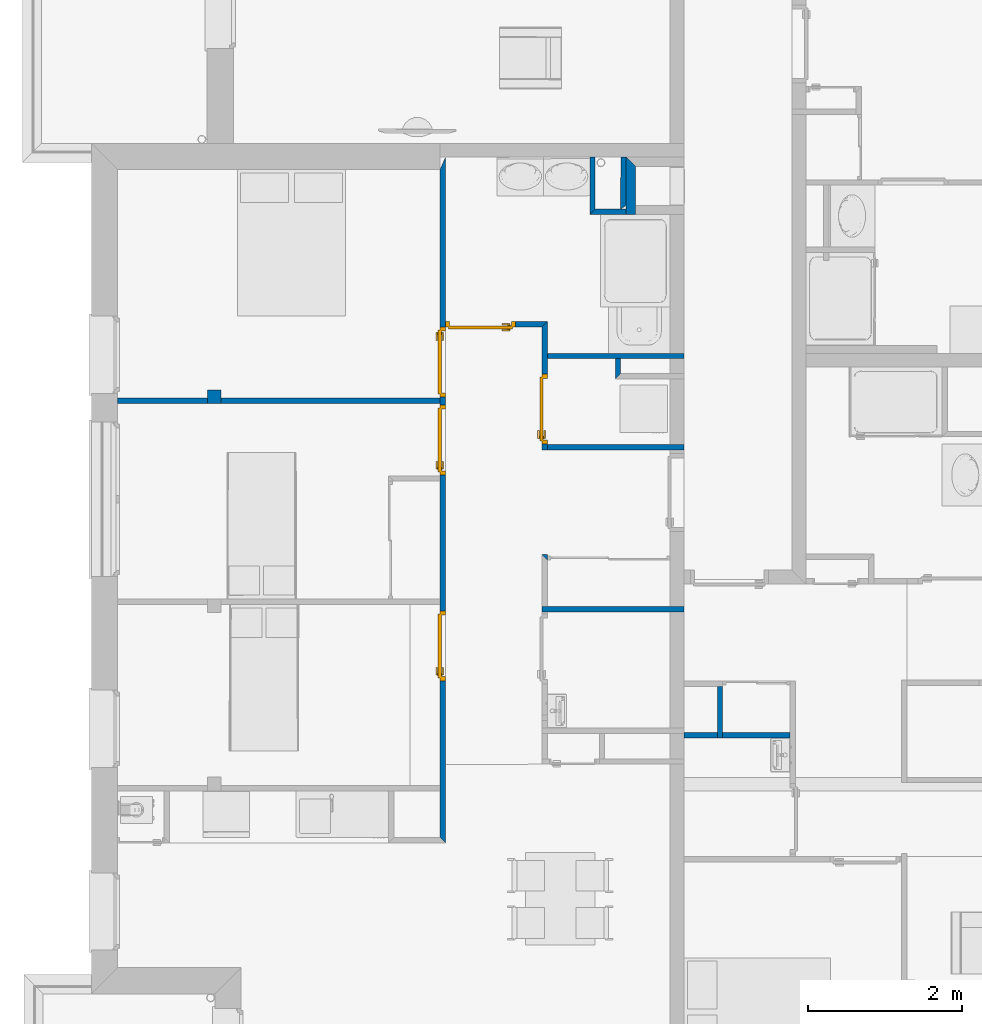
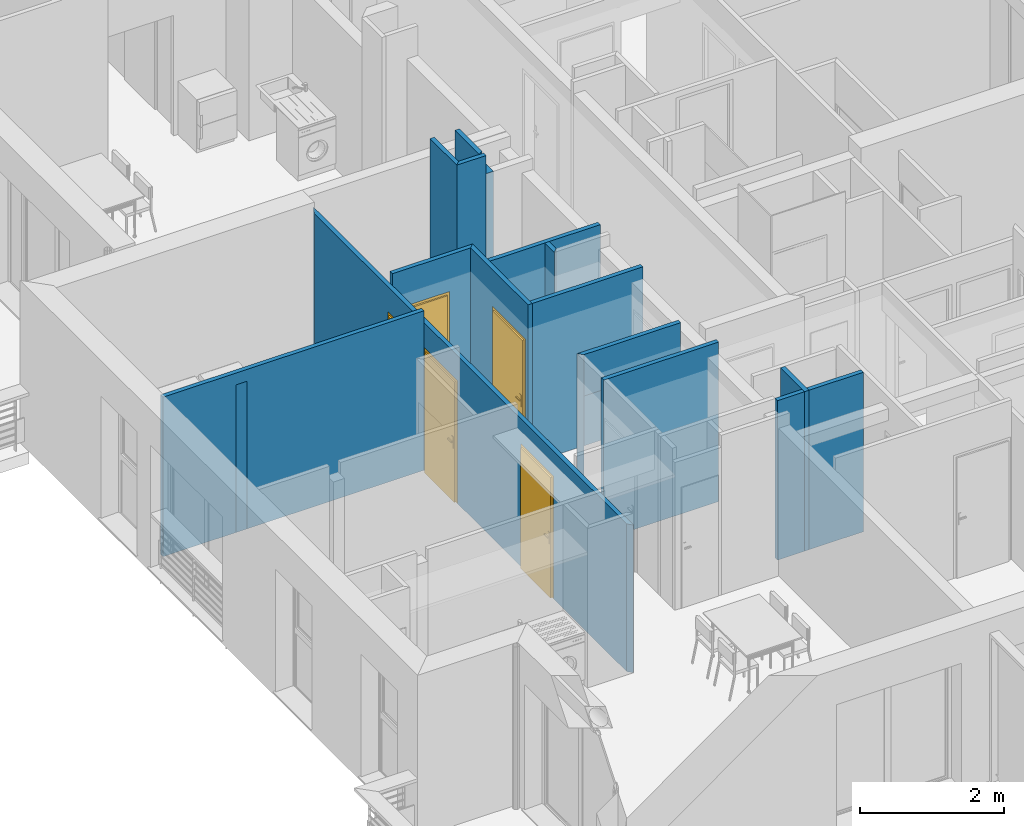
# One storey, part 10 of 164: 16 walls, 5 doors, 6 openings.
"""IFC2X3 building model written with IfcOpenShell, lengths in millimetres."""

import ifcopenshell
import ifcopenshell.guid

model = None  # the IFC model being written
_history = None  # IfcOwnerHistory: only IFC2X3 demands one
_inside = {}  # id of a spatial element -> (the spatial element, [elements in it])
_under = {}  # id of a project, library or spatial element -> (it, [spatial elements below it])
_declared = {}  # id of a project -> (the project, [libraries it declares])
_typed = {}  # id of a type object -> (the type object, [elements of that type])
_made_of = {}  # id of a material, layer set ... -> (it, [elements and type objects made of it])


def new_model(schema):
    """Start an empty IFC model of exactly this schema.

    Asked for "IFC4X3", IfcOpenShell would pick the latest addendum, in which some entities
    have other attributes; the version numbers below select the first issue.
    IFC2X3 requires an IfcOwnerHistory on every rooted entity: one is made here for all.
    """
    global model, _history
    if schema == "IFC4X3":
        model = ifcopenshell.file(schema_version=(4, 3, 0, 0))
    else:
        model = ifcopenshell.file(schema=schema)
    _inside.clear()
    _under.clear()
    _declared.clear()
    _typed.clear()
    _made_of.clear()
    _history = None
    if model.schema == "IFC2X3":
        org = make("IfcOrganization", Name="unknown")
        user = make(
            "IfcPersonAndOrganization",
            ThePerson=make("IfcPerson", FamilyName="unknown"),
            TheOrganization=org,
        )
        app = make(
            "IfcApplication",
            ApplicationDeveloper=org,
            Version="unknown",
            ApplicationFullName="unknown",
            ApplicationIdentifier="unknown",
        )
        _history = make(
            "IfcOwnerHistory",
            OwningUser=user,
            OwningApplication=app,
            ChangeAction="ADDED",
            CreationDate=0,
        )
    return model


def make(cls, **values):
    """One entity of the class cls with the attributes given. An attribute that is None is left unset."""
    return model.create_entity(
        cls, **{name: value for name, value in values.items() if value is not None}
    )


def entity(cls, *values):
    """Any entity or typed value of the class cls, its attributes in the order of the schema. None: left unset."""
    e = model.create_entity(cls)
    for i, value in enumerate(values):
        if value is not None:
            e[i] = value
    return e


def rooted(cls, **values):
    """An entity with a GlobalId (a new one), such as an element, a storey or a relation."""
    return make(cls, GlobalId=ifcopenshell.guid.new(), OwnerHistory=_history, **values)


def si_unit(unit_type, name, prefix=None):
    """IfcSIUnit, for example si_unit("LENGTHUNIT", "METRE", prefix="MILLI")."""
    return make("IfcSIUnit", UnitType=unit_type, Prefix=prefix, Name=name)


def converted_unit(unit_type, name, factor, base, dimensions=None, offset=None):
    """IfcConversionBasedUnit, such as the inch: factor (a typed value) times the base unit."""
    return make(
        "IfcConversionBasedUnit"
        if offset is None
        else "IfcConversionBasedUnitWithOffset",
        ConversionOffset=offset,
        Dimensions=None
        if dimensions is None
        else entity("IfcDimensionalExponents", *dimensions),
        UnitType=unit_type,
        Name=name,
        ConversionFactor=make(
            "IfcMeasureWithUnit", ValueComponent=factor, UnitComponent=base
        ),
    )


def derived_unit(unit_type, elements):
    """IfcDerivedUnit: a product of units, each with its exponent."""
    return make(
        "IfcDerivedUnit",
        Elements=[
            make("IfcDerivedUnitElement", Unit=unit, Exponent=power)
            for unit, power in elements
        ],
        UnitType=unit_type,
    )


def money_unit(currency):
    """IfcMonetaryUnit."""
    return make("IfcMonetaryUnit", Currency=currency)


def assignment(units):
    """IfcUnitAssignment: the units of a project."""
    return None if units is None else make("IfcUnitAssignment", Units=units)


def point(xyz):
    """IfcCartesianPoint."""
    return None if xyz is None else make("IfcCartesianPoint", Coordinates=xyz)


def direction(xyz):
    """IfcDirection."""
    return None if xyz is None else make("IfcDirection", DirectionRatios=xyz)


def frame(location, z_axis=None, x_axis=None):
    """IfcAxis2Placement3D, a coordinate frame: its origin and axes. An axis left out is left unset."""
    return make(
        "IfcAxis2Placement3D",
        Location=point(location),
        Axis=direction(z_axis),
        RefDirection=direction(x_axis),
    )


def frame_2d(location, x_axis=None):
    """IfcAxis2Placement2D, a coordinate frame in the plane: its origin and x axis."""
    return make(
        "IfcAxis2Placement2D", Location=point(location), RefDirection=direction(x_axis)
    )


def origin_with_axes():
    """The frame at (0, 0, 0) with the z axis (0, 0, 1) and the x axis (1, 0, 0) written out."""
    return frame((0.0, 0.0, 0.0), z_axis=(0.0, 0.0, 1.0), x_axis=(1.0, 0.0, 0.0))


def origin_2d_with_axis():
    """The frame at (0, 0) in the plane with the x axis (1, 0) written out."""
    return frame_2d((0.0, 0.0), x_axis=(1.0, 0.0))


def place(relative_to, where):
    """IfcLocalPlacement: puts the frame where relative to a parent placement (None: the world)."""
    return make(
        "IfcLocalPlacement", PlacementRelTo=relative_to, RelativePlacement=where
    )


def context(
    kind, dimensions, precision=None, world=None, true_north=None, identifier=None
):
    """IfcGeometricRepresentationContext, for example the 3D "Model" context."""
    return make(
        "IfcGeometricRepresentationContext",
        ContextIdentifier=identifier,
        ContextType=kind,
        CoordinateSpaceDimension=dimensions,
        Precision=precision,
        WorldCoordinateSystem=world,
        TrueNorth=true_north,
    )


def subcontext(parent, identifier, kind, view, scale=None):
    """IfcGeometricRepresentationSubContext, for example "Body" below "Model"."""
    return make(
        "IfcGeometricRepresentationSubContext",
        ContextIdentifier=identifier,
        ContextType=kind,
        ParentContext=parent,
        TargetScale=scale,
        TargetView=view,
    )


def project(units=None, contexts=None):
    """IfcProject with its units and contexts."""
    return rooted(
        "IfcProject",
        Name="project",
        RepresentationContexts=contexts,
        UnitsInContext=assignment(units),
    )


def spatial(cls, under=None, at=None, **own):
    """A site, building, storey or space (cls), placed at a placement, below another one or the project."""
    s = rooted(cls, ObjectPlacement=at, **own)
    if under is not None:
        _under.setdefault(under.id(), (under, []))[1].append(s)
    return s


def polyline(points):
    """IfcPolyline through the points."""
    return make("IfcPolyline", Points=[point(p) for p in points])


def profile(cls, at=None, kind="AREA", **sizes):
    """A parametric profile (cls). Its sizes go by their IFC names, for example OverallWidth=200.0."""
    return make(cls, ProfileType=kind, Position=at, **sizes)


def rectangle(**sizes):
    """IfcRectangleProfileDef."""
    return profile("IfcRectangleProfileDef", **sizes)


def outline(outer, holes=None, kind="AREA"):
    """IfcArbitraryClosedProfileDef: a profile drawn as a closed curve; with holes, ...WithVoids."""
    if holes is None:
        return make("IfcArbitraryClosedProfileDef", ProfileType=kind, OuterCurve=outer)
    return make(
        "IfcArbitraryProfileDefWithVoids",
        ProfileType=kind,
        OuterCurve=outer,
        InnerCurves=holes,
    )


def extrude(swept, where, along, depth):
    """IfcExtrudedAreaSolid: the profile swept, set in the frame where, extruded along a direction by depth."""
    return make(
        "IfcExtrudedAreaSolid",
        SweptArea=swept,
        Position=where,
        ExtrudedDirection=direction(along),
        Depth=depth,
    )


def faces_of(points, faces, orient=None, outer=None):
    """IfcFace entities. A face is a list of loops; a loop is a list of indices into points, from 0.

    orient and outer hold one flag for each loop. By default every Orientation is true, the
    first loop of a face is its IfcFaceOuterBound and the others are IfcFaceBound.
    """
    made = []
    for i, loops in enumerate(faces):
        bounds = []
        for j, loop in enumerate(loops):
            is_outer = j == 0 if outer is None else outer[i][j]
            bounds.append(
                make(
                    "IfcFaceOuterBound" if is_outer else "IfcFaceBound",
                    Bound=make("IfcPolyLoop", Polygon=[points[k] for k in loop]),
                    Orientation=True if orient is None else orient[i][j],
                )
            )
        made.append(make("IfcFace", Bounds=bounds))
    return made


def faceted_brep(points, faces, orient=None, outer=None, voids=None):
    """IfcFacetedBrep: a solid bounded by flat faces; with voids (closed shells), ...WithVoids."""
    shared = [point(p) for p in points]
    hull = make("IfcClosedShell", CfsFaces=faces_of(shared, faces, orient, outer))
    if voids is None:
        return make("IfcFacetedBrep", Outer=hull)
    return make(
        "IfcFacetedBrepWithVoids",
        Outer=hull,
        Voids=[
            make(cls, CfsFaces=faces_of(shared, fs, o, b)) for cls, fs, o, b in voids
        ],
    )


def shape(context_of_items, identifier, shape_type, items):
    """IfcShapeRepresentation: the items that make up one representation, for example the "Body"."""
    return make(
        "IfcShapeRepresentation",
        ContextOfItems=context_of_items,
        RepresentationIdentifier=identifier,
        RepresentationType=shape_type,
        Items=items,
    )


def source(mapping_origin, context_of_items, identifier, shape_type, items):
    """IfcRepresentationMap: a shape defined once, which mapped items show again and again."""
    return make(
        "IfcRepresentationMap",
        MappingOrigin=mapping_origin,
        MappedRepresentation=shape(context_of_items, identifier, shape_type, items),
    )


def transform(
    local_origin,
    x_axis=None,
    y_axis=None,
    z_axis=None,
    scale=None,
    scale2=None,
    scale3=None,
    uniform=True,
):
    """IfcCartesianTransformationOperator3D, or its non-uniform kind. x_axis, y_axis, z_axis: its Axis1, 2, 3."""
    if uniform:
        return make(
            "IfcCartesianTransformationOperator3D",
            Axis1=direction(x_axis),
            Axis2=direction(y_axis),
            LocalOrigin=point(local_origin),
            Scale=scale,
            Axis3=direction(z_axis),
        )
    return make(
        "IfcCartesianTransformationOperator3DnonUniform",
        Axis1=direction(x_axis),
        Axis2=direction(y_axis),
        LocalOrigin=point(local_origin),
        Scale=scale,
        Axis3=direction(z_axis),
        Scale2=scale2,
        Scale3=scale3,
    )


def mapped(mapping_source, mapping_target):
    """IfcMappedItem: shows the shape of a source again, moved by a transform."""
    return make(
        "IfcMappedItem", MappingSource=mapping_source, MappingTarget=mapping_target
    )


def material(Name=None, Category=None):
    """IfcMaterial."""
    return make("IfcMaterial", Name=Name, Category=Category)


def layer(
    of_material, thickness, ventilated=None, Name=None, Category=None, Priority=None
):
    """IfcMaterialLayer: one layer of a wall or slab, of a material (None: an air gap)."""
    return make(
        "IfcMaterialLayer",
        Material=of_material,
        LayerThickness=thickness,
        IsVentilated=ventilated,
        Name=Name,
        Category=Category,
        Priority=Priority,
    )


def layer_set(layers, Name=None):
    """IfcMaterialLayerSet."""
    return make("IfcMaterialLayerSet", MaterialLayers=layers, LayerSetName=Name)


def layer_usage(for_layer_set, set_direction, sense, offset, extent=None):
    """IfcMaterialLayerSetUsage: how a layer set lies in its element."""
    return make(
        "IfcMaterialLayerSetUsage",
        ForLayerSet=for_layer_set,
        LayerSetDirection=set_direction,
        DirectionSense=sense,
        OffsetFromReferenceLine=offset,
        ReferenceExtent=extent,
    )


def made_of(thing, what):
    """Note that an element or type object is made of a material, layer set ...; save() writes the relation."""
    if what is not None:
        _made_of.setdefault(what.id(), (what, []))[1].append(thing)
    return thing


def type_object(cls, material=None, **own):
    """A type object (cls), such as IfcWallType, which elements share."""
    return made_of(rooted(cls, **own), material)


def element(
    cls,
    number,
    at=None,
    inside=None,
    cuts=None,
    type_object=None,
    material=None,
    context=None,
    identifier="Body",
    shape_type=None,
    held_by="IfcProductDefinitionShape",
    body=None,
    shapes=None,
    **own,
):
    """One element of the class cls, such as IfcWall. Its Tag is "e" and its number.

    at: its placement. inside: the storey or other place that contains it. cuts: it is an
    opening in that element (IfcRelVoidsElement). A single representation is given by context,
    identifier, shape_type and body (its items); several are given by shapes. held_by: the class
    of the entity that holds the representations. save() writes the other relations.
    """
    e = rooted(cls, Tag="e%d" % number, ObjectPlacement=at, **own)
    if body is not None:
        shapes = [shape(context, identifier, shape_type, body)]
    if shapes is not None:
        e.Representation = make(held_by, Representations=shapes)
    if inside is not None:
        _inside.setdefault(inside.id(), (inside, []))[1].append(e)
    if cuts is not None:
        rooted(
            "IfcRelVoidsElement", RelatingBuildingElement=cuts, RelatedOpeningElement=e
        )
    if type_object is not None:
        _typed.setdefault(type_object.id(), (type_object, []))[1].append(e)
    return made_of(e, material)


def fill(opening, filler):
    """IfcRelFillsElement: the door or window that sits in an opening."""
    return rooted(
        "IfcRelFillsElement",
        RelatingOpeningElement=opening,
        RelatedBuildingElement=filler,
    )


def aggregate(whole, parts):
    """IfcRelAggregates: a whole, such as a stair, and the parts it consists of."""
    return rooted("IfcRelAggregates", RelatingObject=whole, RelatedObjects=parts)


def save(model, path):
    """Write the relations noted so far, then the file.

    IfcRelAggregates (storeys below a building ...), IfcRelContainedInSpatialStructure (elements
    in a storey), IfcRelDefinesByType, IfcRelAssociatesMaterial and IfcRelDeclares: one each for
    every whole, place, type object, material and project.
    """
    for whole, parts in _under.values():
        aggregate(whole, parts)
    for where, things in _inside.values():
        rooted(
            "IfcRelContainedInSpatialStructure",
            RelatedElements=things,
            RelatingStructure=where,
        )
    for kind, things in _typed.values():
        rooted("IfcRelDefinesByType", RelatedObjects=things, RelatingType=kind)
    for what, things in _made_of.values():
        rooted("IfcRelAssociatesMaterial", RelatedObjects=things, RelatingMaterial=what)
    for by, libraries in _declared.values():
        rooted("IfcRelDeclares", RelatingContext=by, RelatedDefinitions=libraries)
    model.write(path)


model = new_model("IFC2X3")

# Units and contexts
model_context = context("Model", 3, precision=0.01, world=origin_with_axes(), true_north=direction((0.0, 1.0)))
body_context = subcontext(model_context, "Body", "Model", "MODEL_VIEW")
ifc_project = project(units=[si_unit("LENGTHUNIT", "METRE", prefix="MILLI"), si_unit("AREAUNIT", "SQUARE_METRE"), si_unit("VOLUMEUNIT", "CUBIC_METRE"), converted_unit("PLANEANGLEUNIT", "DEGREE", entity("IfcPlaneAngleMeasure", 0.0174532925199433), si_unit("PLANEANGLEUNIT", "RADIAN"), dimensions=[0, 0, 0, 0, 0, 0, 0]), money_unit("USD"), converted_unit("TIMEUNIT", "Year", entity("IfcTimeMeasure", 31557600.0), si_unit("TIMEUNIT", "SECOND"), dimensions=[0, 0, 1, 0, 0, 0, 0]), si_unit("MASSUNIT", "GRAM", prefix="KILO"), si_unit("THERMODYNAMICTEMPERATUREUNIT", "DEGREE_CELSIUS"), si_unit("LUMINOUSINTENSITYUNIT", "LUMEN"), si_unit("ENERGYUNIT", "JOULE", prefix="MEGA"), derived_unit("THERMALCONDUCTANCEUNIT", [(si_unit("POWERUNIT", "WATT"), 1), (si_unit("LENGTHUNIT", "METRE"), -1), (si_unit("THERMODYNAMICTEMPERATUREUNIT", "KELVIN"), -1)]), derived_unit("SPECIFICHEATCAPACITYUNIT", [(si_unit("ENERGYUNIT", "JOULE"), 1), (si_unit("MASSUNIT", "GRAM", prefix="KILO"), -1), (si_unit("THERMODYNAMICTEMPERATUREUNIT", "KELVIN"), -1)]), derived_unit("MASSDENSITYUNIT", [(si_unit("MASSUNIT", "GRAM", prefix="KILO"), 1), (si_unit("VOLUMEUNIT", "CUBIC_METRE"), -1)])], contexts=[model_context])

# Site, building, storey
site_placement = place(None, origin_with_axes())
site = spatial("IfcSite", under=ifc_project, at=site_placement, Name="Site", CompositionType="ELEMENT")
building_placement = place(site_placement, origin_with_axes())
building = spatial("IfcBuilding", under=site, at=building_placement, Name="Bâtiment", CompositionType="ELEMENT")
storey_placement = place(building_placement, frame((0.0, 0.0, 5750.0), z_axis=(0.0, 0.0, 1.0), x_axis=(1.0, 0.0, 0.0)))
storey = spatial("IfcBuildingStorey", under=building, at=storey_placement, Name="Etage1", CompositionType="ELEMENT", Elevation=5750.0)

# Walls
ifc_material_1 = material(Name="Hachure solide 268963992")
ifc_layer_1 = layer(ifc_material_1, 70.0, ventilated="UNKNOWN")
ifc_layer_set_1 = layer_set([ifc_layer_1], Name="Cloison 70 0826278243")
ifc_layer_usage_1 = layer_usage(ifc_layer_set_1, "AXIS2", "NEGATIVE", 70.0)
wall_type_1 = type_object("IfcWallType", Name="Cloison 70 0826278243 70", PredefinedType="NOTDEFINED")
wall_1_placement = place(storey_placement, frame((2224312.379002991, -650018.391743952, 0.0), z_axis=(0.0, 0.0, 1.0), x_axis=(-0.999999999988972, 4.696381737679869e-06, 0.0)))
element("IfcWallStandardCase", 1, at=wall_1_placement, inside=storey, type_object=wall_type_1, material=ifc_layer_usage_1, Name="Mur-149", context=body_context, shape_type="SweptSolid", body=[
    extrude(outline(polyline([(0.0, 0.0), (1840.21103186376, 0.0), (1840.21103186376, 69.99999999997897), (0.0, 69.99999999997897), (0.0, 0.0)])), origin_with_axes(), (0.0, 0.0, 1.0), 2700.0),
])
ifc_layer_usage_2 = layer_usage(ifc_layer_set_1, "AXIS2", "NEGATIVE", 70.0)
wall_2_placement = place(storey_placement, frame((2223422.804172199, -646738.8568963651, 0.0), z_axis=(0.0, 0.0, 1.0), x_axis=(-3.46149435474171e-05, -0.9999999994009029, 0.0)))
element("IfcWallStandardCase", 2, at=wall_2_placement, inside=storey, type_object=wall_type_1, material=ifc_layer_usage_2, Name="Mur-149", context=body_context, shape_type="SweptSolid", body=[
    extrude(outline(polyline([(70.00000004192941, 1.13686837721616e-10), (332.9953404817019, 0.0), (262.9947808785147, 70.00000000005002), (69.99757699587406, 70.00000000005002), (70.00000004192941, 1.13686837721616e-10)])), origin_with_axes(), (0.0, 0.0, 1.0), 2700.0),
])

# Wall, opening, door
ifc_layer_usage_3 = layer_usage(ifc_layer_set_1, "AXIS2", "NEGATIVE", 70.0)
wall_3_placement = place(storey_placement, frame((2222472.351167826, -646327.0248240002, 0.0), z_axis=(0.0, 0.0, 1.0), x_axis=(-1.0, 0.0, 0.0)))
wall_3 = element("IfcWallStandardCase", 3, at=wall_3_placement, inside=storey, type_object=wall_type_1, material=ifc_layer_usage_3, Name="Mur-149", context=body_context, shape_type="SweptSolid", body=[
    extrude(outline(polyline([(-70.00000000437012, 0.0), (1250.000006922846, 0.0), (1250.000007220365, 69.99999999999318), (0.0007766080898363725, 69.99999999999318), (-70.00000000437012, 0.0)])), origin_with_axes(), (0.0, 0.0, 1.0), 2700.0),
])
opening_1_placement = place(wall_3_placement, frame((796.1304639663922, 0.0, 0.0), z_axis=(0.0, 0.0, 1.0), x_axis=(1.0, 0.0, 0.0)))
opening_1 = element("IfcOpeningElement", 4, at=opening_1_placement, cuts=wall_3, Name="Por-280", context=body_context, shape_type="SweptSolid", body=[
    extrude(rectangle(XDim=910.0, YDim=2080.0, at=origin_2d_with_axis()), frame((0.0, -69.99999999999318, 1040.0), z_axis=(0.0, 1.0, 0.0), x_axis=(1.0, 0.0, 0.0)), (0.0, 0.0, 1.0), 140.0),
])
door_style = type_object("IfcDoorStyle", Name="Porte_1v", ConstructionType="NOTDEFINED", OperationType="NOTDEFINED", ParameterTakesPrecedence=False, Sizeable=False)
shared_shape_1 = source(origin_with_axes(), body_context, "Body", "Brep", [
    faceted_brep([(454.9999999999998, 0.0, 0.0), (414.9999999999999, 0.0, 0.0), (414.9999999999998, 0.0, 2040.0), (-414.9999999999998, 0.0, 2040.0), (-414.9999999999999, 0.0, 0.0), (-454.9999999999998, 0.0, 0.0), (-454.9999999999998, 0.0, 2080.0), (454.9999999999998, 0.0, 2080.0), (454.9999999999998, -69.99999999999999, 0.0), (399.9999999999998, -69.99999999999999, 0.0), (399.9999999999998, -15.0, 0.0), (414.9999999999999, -15.0, 0.0), (414.9999999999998, -15.0, 2040.0), (-414.9999999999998, -15.0, 2040.0), (-414.9999999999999, -15.0, 0.0), (-399.9999999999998, -15.0, 0.0), (-399.9999999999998, -69.99999999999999, 0.0), (-454.9999999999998, -69.99999999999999, 0.0), (-454.9999999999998, -69.99999999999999, 2080.0), (454.9999999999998, -69.99999999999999, 2080.0), (-399.9999999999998, -69.99999999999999, 2025.0), (399.9999999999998, -69.99999999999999, 2025.0), (399.9999999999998, -15.0, 2025.0), (-399.9999999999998, -15.0, 2025.0)], [[[0, 1, 2, 3, 4, 5, 6, 7]], [[0, 8, 9, 10, 11, 1]], [[1, 11, 12, 2]], [[2, 12, 13, 3]], [[3, 13, 14, 4]], [[5, 4, 14, 15, 16, 17]], [[18, 6, 5, 17]], [[19, 7, 6, 18]], [[8, 0, 7, 19]], [[9, 8, 19, 18, 17, 16, 20, 21]], [[10, 9, 21, 22]], [[11, 10, 22, 23, 15, 14, 13, 12]], [[23, 20, 16, 15]], [[22, 21, 20, 23]]]),
    faceted_brep([(-349.9999999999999, -15.0, 900.0), (-389.9999999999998, -15.0, 900.0), (-389.9999999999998, -15.0, 1100.0), (-349.9999999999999, -15.0, 1100.0), (-349.9999999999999, -24.99999999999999, 900.0), (-389.9999999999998, -24.99999999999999, 900.0), (-389.9999999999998, -24.99999999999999, 1100.0), (-349.9999999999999, -24.99999999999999, 1100.0)], [[[0, 1, 2, 3]], [[1, 0, 4, 5]], [[2, 1, 5, 6]], [[3, 2, 6, 7]], [[0, 3, 7, 4]], [[5, 4, 7, 6]]]),
    faceted_brep([(-279.9999999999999, -24.99999999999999, 1000.0), (-379.9999999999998, -24.99999999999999, 1000.0), (-379.9999999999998, -24.99999999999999, 1020.0), (-279.9999999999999, -24.99999999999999, 1020.0), (-279.9999999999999, -44.99999999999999, 1000.0), (-379.9999999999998, -44.99999999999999, 1000.0), (-379.9999999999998, -44.99999999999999, 1020.0), (-279.9999999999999, -44.99999999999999, 1020.0)], [[[0, 1, 2, 3]], [[1, 0, 4, 5]], [[2, 1, 5, 6]], [[3, 2, 6, 7]], [[0, 3, 7, 4]], [[5, 4, 7, 6]]]),
    faceted_brep([(-349.9999999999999, 34.99999999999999, 900.0), (-389.9999999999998, 34.99999999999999, 900.0), (-389.9999999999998, 34.99999999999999, 1100.0), (-349.9999999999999, 34.99999999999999, 1100.0), (-349.9999999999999, 24.99999999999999, 900.0), (-389.9999999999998, 24.99999999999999, 900.0), (-389.9999999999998, 24.99999999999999, 1100.0), (-349.9999999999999, 24.99999999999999, 1100.0)], [[[0, 1, 2, 3]], [[1, 0, 4, 5]], [[2, 1, 5, 6]], [[3, 2, 6, 7]], [[0, 3, 7, 4]], [[5, 4, 7, 6]]]),
    faceted_brep([(-279.9999999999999, 54.99999999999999, 1000.0), (-379.9999999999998, 54.99999999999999, 1000.0), (-379.9999999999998, 54.99999999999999, 1020.0), (-279.9999999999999, 54.99999999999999, 1020.0), (-279.9999999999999, 34.99999999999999, 1000.0), (-379.9999999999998, 34.99999999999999, 1000.0), (-379.9999999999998, 34.99999999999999, 1020.0), (-279.9999999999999, 34.99999999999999, 1020.0)], [[[0, 1, 2, 3]], [[1, 0, 4, 5]], [[2, 1, 5, 6]], [[3, 2, 6, 7]], [[0, 3, 7, 4]], [[5, 4, 7, 6]]]),
    faceted_brep([(-414.9999999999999, 24.99999999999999, 0.0), (414.9999999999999, 24.99999999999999, 0.0), (414.9999999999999, -15.0, 0.0), (-414.9999999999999, -15.0, 0.0), (-414.9999999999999, 24.99999999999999, 2040.0), (414.9999999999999, 24.99999999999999, 2040.0), (414.9999999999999, -15.0, 2040.0), (-414.9999999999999, -15.0, 2040.0)], [[[0, 1, 2, 3]], [[0, 4, 5, 1]], [[1, 5, 6, 2]], [[3, 2, 6, 7]], [[4, 0, 3, 7]], [[5, 4, 7, 6]]]),
])
door_1_placement = place(opening_1_placement, frame((-414.9999999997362, 0.0, 0.0), z_axis=(0.0, 0.0, 1.0), x_axis=(1.0, 0.0, 0.0)))
door_1 = element("IfcDoor", 5, at=door_1_placement, inside=storey, type_object=door_style, Name="Por-280", OverallHeight=2040.0, OverallWidth=830.0, context=body_context, shape_type="MappedRepresentation", body=[
    mapped(shared_shape_1, transform((414.9999999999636, 69.99999999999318, 0.0))),
])
fill(opening_1, door_1)

# Walls
ifc_layer_usage_4 = layer_usage(ifc_layer_set_1, "AXIS2", "NEGATIVE", 70.0)
wall_4_placement = place(storey_placement, frame((2224312.371118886, -646738.8568963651, 0.0), z_axis=(0.0, 0.0, 1.0), x_axis=(-1.0, 0.0, 0.0)))
element("IfcWallStandardCase", 6, at=wall_4_placement, inside=storey, type_object=wall_type_1, material=ifc_layer_usage_4, Name="Mur-149", context=body_context, shape_type="SweptSolid", body=[
    extrude(outline(polyline([(0.0, 0.0), (1770.024520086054, 0.0), (1770.02529669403, 69.99999999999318), (0.0, 69.99999999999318), (0.0, 0.0)])), origin_with_axes(), (0.0, 0.0, 1.0), 2700.0),
])
ifc_layer_usage_5 = layer_usage(ifc_layer_set_1, "AXIS2", "POSITIVE", -70.0)
wall_5_placement = place(storey_placement, frame((2223562.190717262, -644940.5007987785, 0.0), z_axis=(0.0, 0.0, 1.0), x_axis=(-1.0, 0.0, 0.0)))
element("IfcWallStandardCase", 7, at=wall_5_placement, inside=storey, type_object=wall_type_1, material=ifc_layer_usage_5, Name="Mur-149", context=body_context, shape_type="SweptSolid", body=[
    extrude(outline(polyline([(0.0, -69.99999999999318), (400.4638415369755, -69.99999999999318), (470.4638415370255, 0.0), (0.0, 0.0), (0.0, -69.99999999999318)])), origin_with_axes(), (0.0, 0.0, 1.0), 3000.0),
])
ifc_layer_usage_6 = layer_usage(ifc_layer_set_1, "AXIS2", "NEGATIVE", 70.0)
wall_6_placement = place(storey_placement, frame((2221152.351167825, -647320.7866252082, 0.0), z_axis=(0.0, 0.0, 1.0), x_axis=(-1.0, 0.0, 0.0)))
element("IfcWallStandardCase", 8, at=wall_6_placement, inside=storey, type_object=wall_type_1, material=ifc_layer_usage_6, Name="Mur-149", context=body_context, shape_type="SweptSolid", body=[
    extrude(outline(polyline([(1.114665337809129e-05, 0.0), (4178.117822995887, 0.0), (4178.117822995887, 69.99999999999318), (1.144417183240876e-05, 69.99999999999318), (1.114665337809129e-05, 0.0)])), origin_with_axes(), (0.0, 0.0, 1.0), 2700.0),
])
ifc_layer_usage_7 = layer_usage(ifc_layer_set_1, "AXIS2", "NEGATIVE", 70.0)
wall_7_placement = place(storey_placement, frame((2224312.344504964, -647918.5288637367, 0.0), z_axis=(0.0, 0.0, 1.0), x_axis=(-1.0, 0.0, 0.0)))
element("IfcWallStandardCase", 9, at=wall_7_placement, inside=storey, type_object=wall_type_1, material=ifc_layer_usage_7, Name="Mur-149", context=body_context, shape_type="SweptSolid", body=[
    extrude(outline(polyline([(0.0, 0.0), (1770.010993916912, 0.0), (1770.011770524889, 69.99999999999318), (0.0, 69.99999999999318), (0.0, 0.0)])), origin_with_axes(), (0.0, 0.0, 1.0), 2700.0),
])

# Wall, opening, door
ifc_layer_usage_8 = layer_usage(ifc_layer_set_1, "AXIS2", "NEGATIVE", 70.0)
wall_8_placement = place(storey_placement, frame((2222472.351167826, -646327.0248240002, 0.0), z_axis=(0.0, 0.0, 1.0), x_axis=(-1.109440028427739e-05, -0.9999999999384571, 0.0)))
wall_8 = element("IfcWallStandardCase", 10, at=wall_8_placement, inside=storey, type_object=wall_type_1, material=ifc_layer_usage_8, Name="Mur-149", context=body_context, shape_type="SweptSolid", body=[
    extrude(outline(polyline([(70.00000000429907, 0.0), (1661.504039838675, 0.0), (1661.504039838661, 69.99999999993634), (-0.0007766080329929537, 70.00000000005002), (70.00000000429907, 0.0)])), origin_with_axes(), (0.0, 0.0, 1.0), 2700.0),
])
opening_2_placement = place(wall_8_placement, frame((1134.999925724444, -1.13686837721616e-10, 0.0), z_axis=(0.0, 0.0, 1.0), x_axis=(1.0, 0.0, 0.0)))
opening_2 = element("IfcOpeningElement", 11, at=opening_2_placement, cuts=wall_8, Name="Por-284", context=body_context, shape_type="SweptSolid", body=[
    extrude(rectangle(XDim=910.0, YDim=2080.0, at=origin_2d_with_axis()), frame((0.0, 70.00000000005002, 1040.0), z_axis=(0.0, -1.0, 0.0), x_axis=(-1.0, 0.0, 0.0)), (0.0, 0.0, 1.0), 140.0),
])
door_2_placement = place(opening_2_placement, frame((415.0000000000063, 3.410605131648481e-10, 0.0), z_axis=(0.0, 0.0, 1.0), x_axis=(-1.0, 0.0, 0.0)))
door_2 = element("IfcDoor", 12, at=door_2_placement, inside=storey, type_object=door_style, Name="Por-284", OverallHeight=2040.0, OverallWidth=830.0, context=body_context, shape_type="MappedRepresentation", body=[
    mapped(shared_shape_1, transform((415.0000000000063, 1.13686837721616e-10, 0.0))),
])
fill(opening_2, door_2)

# Walls
ifc_layer_usage_9 = layer_usage(ifc_layer_set_1, "AXIS2", "NEGATIVE", 70.0)
wall_9_placement = place(storey_placement, frame((2224312.31835671, -651724.3517134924, 0.0), z_axis=(0.0, 0.0, 1.0), x_axis=(1.0, 0.0, 0.0)))
element("IfcWallStandardCase", 13, at=wall_9_placement, inside=storey, type_object=wall_type_1, material=ifc_layer_usage_9, Name="Mur-149", context=body_context, shape_type="SweptSolid", body=[
    extrude(outline(polyline([(0.0, 0.0), (1374.504614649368, 0.0), (1374.504614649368, 69.99999999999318), (0.0, 69.99999999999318), (0.0, 0.0)])), origin_with_axes(), (0.0, 0.0, 1.0), 2700.0),
])
ifc_layer_usage_10 = layer_usage(ifc_layer_set_1, "AXIS2", "NEGATIVE", 70.0)
wall_10_placement = place(storey_placement, frame((2224814.891377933, -651724.6231453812, 0.0), z_axis=(0.0, 0.0, 1.0), x_axis=(0.0, 1.0, 0.0)))
element("IfcWallStandardCase", 14, at=wall_10_placement, inside=storey, type_object=wall_type_1, material=ifc_layer_usage_10, Name="Mur-149", context=body_context, shape_type="SweptSolid", body=[
    extrude(outline(polyline([(0.0, 0.0), (670.2714318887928, 0.0), (670.2714318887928, 70.00000000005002), (0.0, 70.00000000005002), (0.0, 0.0)])), origin_with_axes(), (0.0, 0.0, 1.0), 2700.0),
])
ifc_layer_usage_11 = layer_usage(ifc_layer_set_1, "AXIS2", "POSITIVE", -70.0)
wall_11_placement = place(storey_placement, frame((2223091.726875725, -644940.5007987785, 0.0), z_axis=(0.0, 0.0, 1.0), x_axis=(0.0, 1.0, 0.0)))
element("IfcWallStandardCase", 15, at=wall_11_placement, inside=storey, type_object=wall_type_1, material=ifc_layer_usage_11, Name="Mur-149", context=body_context, shape_type="SweptSolid", body=[
    extrude(outline(polyline([(69.99999999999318, -70.00000000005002), (744.1243706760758, -70.00000000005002), (744.1243693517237, 0.0), (0.0, 0.0), (69.99999999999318, -70.00000000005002)])), origin_with_axes(), (0.0, 0.0, 1.0), 3000.0),
])

# Wall, opening
ifc_layer_usage_12 = layer_usage(ifc_layer_set_1, "AXIS2", "NEGATIVE", 70.0)
wall_12_placement = place(storey_placement, frame((2224092.318310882, -649348.3834312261, 0.0), z_axis=(0.0, 0.0, 1.0), x_axis=(-1.0, 0.0, 0.0)))
wall_12 = element("IfcWallStandardCase", 16, at=wall_12_placement, inside=storey, type_object=wall_type_1, material=ifc_layer_usage_12, Name="Mur-149", context=body_context, shape_type="SweptSolid", body=[
    extrude(outline(polyline([(0.0, 0.0), (1619.967188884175, 0.0), (1549.979179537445, 69.99999999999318), (0.0, 69.99999999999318), (0.0, 0.0)])), origin_with_axes(), (0.0, 0.0, 1.0), 2700.0),
])
opening_3_placement = place(wall_12_placement, frame((754.9929964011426, 0.0, 0.0), z_axis=(0.0, 0.0, 1.0), x_axis=(1.0, 0.0, 0.0)))
element("IfcOpeningElement", 17, at=opening_3_placement, cuts=wall_12, Name="Por-322", context=body_context, shape_type="SweptSolid", body=[
    extrude(rectangle(XDim=1589.985992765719, YDim=2000.0, at=origin_2d_with_axis()), frame((0.0, 69.99999999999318, 1000.0), z_axis=(0.0, -1.0, 0.0), x_axis=(1.0, 0.0, 0.0)), (0.0, 0.0, -1.0), 70.0),
    extrude(rectangle(XDim=1589.985992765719, YDim=2000.0, at=origin_2d_with_axis()), frame((0.0, 69.99999999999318, 1000.0), z_axis=(0.0, 1.0, 0.0), x_axis=(1.0, 0.0, 0.0)), (0.0, 0.0, -1.0), 70.0),
])

# Wall
ifc_layer_usage_13 = layer_usage(ifc_layer_set_1, "AXIS2", "POSITIVE", -70.0)
wall_13_placement = place(storey_placement, frame((2223563.825471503, -644196.3774207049, 0.0), z_axis=(0.0, 0.0, 1.0), x_axis=(-0.002196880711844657, -0.9999975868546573, 0.0)))
element("IfcWallStandardCase", 18, at=wall_13_placement, inside=storey, type_object=wall_type_1, material=ifc_layer_usage_13, Name="Mur-149", context=body_context, shape_type="SweptSolid", body=[
    extrude(outline(polyline([(0.0, -70.00000000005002), (674.2787868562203, -70.00000000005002), (624.1248841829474, 0.0), (0.0, 0.0), (0.0, -70.00000000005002)])), origin_with_axes(), (0.0, 0.0, 1.0), 3000.0),
])

# Wall, openings, doors
ifc_layer_usage_14 = layer_usage(ifc_layer_set_1, "AXIS2", "NEGATIVE", 70.0)
wall_14_placement = place(storey_placement, frame((2221152.351170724, -644016.3764661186, 0.0), z_axis=(0.0, 0.0, 1.0), x_axis=(-4.250342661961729e-09, -1.0, 0.0)))
wall_14 = element("IfcWallStandardCase", 19, at=wall_14_placement, inside=storey, type_object=wall_type_1, material=ifc_layer_usage_14, Name="Mur-149", context=body_context, shape_type="SweptSolid", body=[
    extrude(outline(polyline([(339.999999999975, 1.13686837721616e-10), (8996.583423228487, 0.0), (9066.583422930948, 70.00000000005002), (179.9999983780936, 70.00000000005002), (339.999999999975, 1.13686837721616e-10)])), origin_with_axes(), (0.0, 0.0, 1.0), 2500.0),
])
opening_4_placement = place(wall_14_placement, frame((2835.648357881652, -2.273736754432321e-10, 0.0), z_axis=(0.0, 0.0, 1.0), x_axis=(1.0, 0.0, 0.0)))
opening_4 = element("IfcOpeningElement", 20, at=opening_4_placement, cuts=wall_14, Name="Por-278", context=body_context, shape_type="SweptSolid", body=[
    extrude(rectangle(XDim=910.0, YDim=2080.0, at=origin_2d_with_axis()), frame((-2.975326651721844e-07, 70.00000000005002, 1040.0), z_axis=(-4.250342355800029e-09, 1.0, 0.0), x_axis=(1.0, 4.250342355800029e-09, 0.0)), (0.0, 0.0, -1.0), 140.0),
])
opening_5_placement = place(wall_14_placement, frame((3844.526334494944, -2.273736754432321e-10, 0.0), z_axis=(0.0, 0.0, 1.0), x_axis=(1.0, 0.0, 0.0)))
opening_5 = element("IfcOpeningElement", 21, at=opening_5_placement, cuts=wall_14, Name="Por-279", context=body_context, shape_type="SweptSolid", body=[
    extrude(rectangle(XDim=910.0, YDim=2080.0, at=origin_2d_with_axis()), frame((-2.975326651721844e-07, 70.00000000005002, 1040.0), z_axis=(4.250342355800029e-09, -1.0, 0.0), x_axis=(-1.0, -4.250342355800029e-09, 0.0)), (0.0, 0.0, 1.0), 140.0),
])
opening_6_placement = place(wall_14_placement, frame((6513.65574901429, -1.13686837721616e-10, 0.0), z_axis=(0.0, 0.0, 1.0), x_axis=(1.0, 0.0, 0.0)))
opening_6 = element("IfcOpeningElement", 22, at=opening_6_placement, cuts=wall_14, Name="Por-281", context=body_context, shape_type="SweptSolid", body=[
    extrude(rectangle(XDim=910.0, YDim=2080.0, at=origin_2d_with_axis()), frame((-2.975326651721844e-07, 70.00000000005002, 1040.0), z_axis=(4.250342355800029e-09, -1.0, 0.0), x_axis=(-1.0, -4.250342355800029e-09, 0.0)), (0.0, 0.0, 1.0), 140.0),
])
shared_shape_2 = source(origin_with_axes(), body_context, "Body", "Brep", [
    faceted_brep([(455.0, 0.0, 0.0), (415.0000000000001, 0.0, 0.0), (415.0000000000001, 0.0, 2040.0), (-415.0000000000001, 0.0, 2040.0), (-415.0000000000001, 0.0, 0.0), (-455.0, 0.0, 0.0), (-455.0, 0.0, 2080.0), (455.0, 0.0, 2080.0), (455.0, -70.0, 0.0), (400.0, -70.0, 0.0), (400.0, -15.0, 0.0), (415.0000000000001, -15.0, 0.0), (415.0000000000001, -15.0, 2040.0), (-415.0000000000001, -15.0, 2040.0), (-415.0000000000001, -15.0, 0.0), (-400.0, -15.0, 0.0), (-400.0, -70.0, 0.0), (-455.0, -70.0, 0.0), (-455.0, -70.0, 2080.0), (455.0, -70.0, 2080.0), (-400.0, -70.0, 2025.0), (400.0, -70.0, 2025.0), (400.0, -15.0, 2025.0), (-400.0, -15.0, 2025.0)], [[[0, 1, 2, 3, 4, 5, 6, 7]], [[0, 8, 9, 10, 11, 1]], [[1, 11, 12, 2]], [[2, 12, 13, 3]], [[3, 13, 14, 4]], [[5, 4, 14, 15, 16, 17]], [[18, 6, 5, 17]], [[19, 7, 6, 18]], [[8, 0, 7, 19]], [[9, 8, 19, 18, 17, 16, 20, 21]], [[10, 9, 21, 22]], [[11, 10, 22, 23, 15, 14, 13, 12]], [[23, 20, 16, 15]], [[22, 21, 20, 23]]]),
    faceted_brep([(-350.0000000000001, -15.0, 900.0), (-390.0, -15.0, 900.0), (-390.0, -15.0, 1100.0), (-350.0000000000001, -15.0, 1100.0), (-350.0000000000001, -25.0, 900.0), (-390.0, -25.0, 900.0), (-390.0, -25.0, 1100.0), (-350.0000000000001, -25.0, 1100.0)], [[[0, 1, 2, 3]], [[1, 0, 4, 5]], [[2, 1, 5, 6]], [[3, 2, 6, 7]], [[0, 3, 7, 4]], [[5, 4, 7, 6]]]),
    faceted_brep([(-280.0, -25.0, 1000.0), (-380.0, -25.0, 1000.0), (-380.0, -25.0, 1020.0), (-280.0, -25.0, 1020.0), (-280.0, -45.0, 1000.0), (-380.0, -45.0, 1000.0), (-380.0, -45.0, 1020.0), (-280.0, -45.0, 1020.0)], [[[0, 1, 2, 3]], [[1, 0, 4, 5]], [[2, 1, 5, 6]], [[3, 2, 6, 7]], [[0, 3, 7, 4]], [[5, 4, 7, 6]]]),
    faceted_brep([(-350.0000000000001, 35.0, 900.0), (-390.0, 35.0, 900.0), (-390.0, 35.0, 1100.0), (-350.0000000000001, 35.0, 1100.0), (-350.0000000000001, 25.0, 900.0), (-390.0, 25.0, 900.0), (-390.0, 25.0, 1100.0), (-350.0000000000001, 25.0, 1100.0)], [[[0, 1, 2, 3]], [[1, 0, 4, 5]], [[2, 1, 5, 6]], [[3, 2, 6, 7]], [[0, 3, 7, 4]], [[5, 4, 7, 6]]]),
    faceted_brep([(-280.0, 55.00000000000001, 1000.0), (-380.0, 55.00000000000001, 1000.0), (-380.0, 55.00000000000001, 1020.0), (-280.0, 55.00000000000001, 1020.0), (-280.0, 35.0, 1000.0), (-380.0, 35.0, 1000.0), (-380.0, 35.0, 1020.0), (-280.0, 35.0, 1020.0)], [[[0, 1, 2, 3]], [[1, 0, 4, 5]], [[2, 1, 5, 6]], [[3, 2, 6, 7]], [[0, 3, 7, 4]], [[5, 4, 7, 6]]]),
    faceted_brep([(-415.0000000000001, 25.0, 0.0), (415.0000000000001, 25.0, 0.0), (415.0000000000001, -15.0, 0.0), (-415.0000000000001, -15.0, 0.0), (-415.0000000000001, 25.0, 2040.0), (415.0000000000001, 25.0, 2040.0), (415.0000000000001, -15.0, 2040.0), (-415.0000000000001, -15.0, 2040.0)], [[[0, 1, 2, 3]], [[0, 4, 5, 1]], [[1, 5, 6, 2]], [[3, 2, 6, 7]], [[4, 0, 3, 7]], [[5, 4, 7, 6]]]),
])
door_3_placement = place(opening_5_placement, frame((414.999999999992, 2.273736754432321e-10, 0.0), z_axis=(0.0, 0.0, 1.0), x_axis=(-1.0, 0.0, 0.0)))
door_3 = element("IfcDoor", 23, at=door_3_placement, inside=storey, type_object=door_style, Name="Por-279", OverallHeight=2040.0, OverallWidth=830.0, context=body_context, shape_type="MappedRepresentation", body=[
    mapped(shared_shape_2, transform((415.0000000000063, -1.634043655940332e-05, 0.0))),
])
fill(opening_5, door_3)
door_4_placement = place(opening_6_placement, frame((414.9999999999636, 0.0, 0.0), z_axis=(0.0, 0.0, 1.0), x_axis=(-1.0, 0.0, 0.0)))
door_4 = element("IfcDoor", 24, at=door_4_placement, inside=storey, type_object=door_style, Name="Por-281", OverallHeight=2040.0, OverallWidth=830.0, context=body_context, shape_type="MappedRepresentation", body=[
    mapped(shared_shape_2, transform((415.0000000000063, -2.768524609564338e-05, 0.0))),
])
fill(opening_6, door_4)
shared_shape_3 = source(origin_with_axes(), body_context, "Body", "Brep", [
    faceted_brep([(-454.9999999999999, 0.0, 0.0), (-454.9999999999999, 0.0, 2080.0), (454.9999999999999, 0.0, 2080.0), (454.9999999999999, 0.0, 0.0), (414.9999999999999, 0.0, 0.0), (414.9999999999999, 0.0, 2040.0), (-414.9999999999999, 0.0, 2040.0), (-414.9999999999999, 0.0, 0.0), (-454.9999999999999, -69.99999999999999, 0.0), (-454.9999999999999, -69.99999999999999, 2080.0), (454.9999999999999, -69.99999999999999, 2080.0), (454.9999999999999, -69.99999999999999, 0.0), (399.9999999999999, -69.99999999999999, 0.0), (399.9999999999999, -15.0, 0.0), (414.9999999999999, -15.0, 0.0), (414.9999999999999, -15.0, 2040.0), (-414.9999999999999, -14.99999999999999, 2040.0), (-414.9999999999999, -14.99999999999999, 0.0), (-399.9999999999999, -14.99999999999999, 0.0), (-399.9999999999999, -69.99999999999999, 0.0), (-399.9999999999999, -69.99999999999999, 2025.0), (399.9999999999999, -69.99999999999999, 2025.0), (399.9999999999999, -15.0, 2025.0), (-399.9999999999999, -14.99999999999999, 2025.0)], [[[0, 1, 2, 3, 4, 5, 6, 7]], [[8, 9, 1, 0]], [[9, 10, 2, 1]], [[10, 11, 3, 2]], [[3, 11, 12, 13, 14, 4]], [[5, 4, 14, 15]], [[6, 5, 15, 16]], [[7, 6, 16, 17]], [[0, 7, 17, 18, 19, 8]], [[19, 20, 21, 12, 11, 10, 9, 8]], [[22, 13, 12, 21]], [[17, 16, 15, 14, 13, 22, 23, 18]], [[18, 23, 20, 19]], [[23, 22, 21, 20]]]),
    faceted_brep([(350.0, -15.0, 900.0), (350.0, -15.0, 1100.0), (389.9999999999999, -15.0, 1100.0), (389.9999999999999, -15.0, 900.0), (350.0, -25.0, 900.0), (350.0, -25.0, 1100.0), (389.9999999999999, -25.0, 1100.0), (389.9999999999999, -25.0, 900.0)], [[[0, 1, 2, 3]], [[0, 4, 5, 1]], [[1, 5, 6, 2]], [[2, 6, 7, 3]], [[3, 7, 4, 0]], [[7, 6, 5, 4]]]),
    faceted_brep([(279.9999999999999, -25.0, 1000.0), (279.9999999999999, -25.0, 1020.0), (379.9999999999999, -25.0, 1020.0), (379.9999999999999, -25.0, 1000.0), (279.9999999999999, -45.0, 1000.0), (279.9999999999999, -45.0, 1020.0), (379.9999999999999, -45.0, 1020.0), (379.9999999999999, -45.0, 1000.0)], [[[0, 1, 2, 3]], [[0, 4, 5, 1]], [[1, 5, 6, 2]], [[2, 6, 7, 3]], [[3, 7, 4, 0]], [[7, 6, 5, 4]]]),
    faceted_brep([(350.0, 34.99999999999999, 900.0), (350.0, 34.99999999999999, 1100.0), (389.9999999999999, 34.99999999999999, 1100.0), (389.9999999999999, 34.99999999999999, 900.0), (350.0, 24.99999999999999, 900.0), (350.0, 24.99999999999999, 1100.0), (389.9999999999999, 24.99999999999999, 1100.0), (389.9999999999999, 24.99999999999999, 900.0)], [[[0, 1, 2, 3]], [[0, 4, 5, 1]], [[1, 5, 6, 2]], [[2, 6, 7, 3]], [[3, 7, 4, 0]], [[7, 6, 5, 4]]]),
    faceted_brep([(279.9999999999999, 54.99999999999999, 1000.0), (279.9999999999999, 54.99999999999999, 1020.0), (379.9999999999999, 54.99999999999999, 1020.0), (379.9999999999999, 54.99999999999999, 1000.0), (279.9999999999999, 34.99999999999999, 1000.0), (279.9999999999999, 34.99999999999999, 1020.0), (379.9999999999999, 34.99999999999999, 1020.0), (379.9999999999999, 34.99999999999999, 1000.0)], [[[0, 1, 2, 3]], [[0, 4, 5, 1]], [[1, 5, 6, 2]], [[2, 6, 7, 3]], [[3, 7, 4, 0]], [[7, 6, 5, 4]]]),
    faceted_brep([(414.9999999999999, 24.99999999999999, 0.0), (414.9999999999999, -15.0, 0.0), (-414.9999999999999, -14.99999999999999, 0.0), (-414.9999999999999, 25.0, 0.0), (414.9999999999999, 24.99999999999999, 2040.0), (414.9999999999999, -15.0, 2040.0), (-414.9999999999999, -14.99999999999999, 2040.0), (-414.9999999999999, 25.0, 2040.0)], [[[0, 1, 2, 3]], [[4, 5, 1, 0]], [[1, 5, 6, 2]], [[3, 2, 6, 7]], [[0, 3, 7, 4]], [[7, 6, 5, 4]]]),
])
door_5_placement = place(opening_4_placement, frame((415.0000000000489, -1.13686837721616e-10, 0.0), z_axis=(0.0, 0.0, 1.0), x_axis=(-1.0, 0.0, 0.0)))
door_5 = element("IfcDoor", 25, at=door_5_placement, inside=storey, type_object=door_style, Name="Por-278", OverallHeight=2040.0, OverallWidth=830.0, context=body_context, shape_type="MappedRepresentation", body=[
    mapped(shared_shape_3, transform((415.0000000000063, -1.205251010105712e-05, 0.0))),
])
fill(opening_4, door_5)

# Walls
ifc_material_2 = material(Name="AS_EMPTY 272048125")
ifc_layer_2 = layer(ifc_material_2, 20.0, ventilated="UNKNOWN")
ifc_material_3 = material(Name="Isolant styromousse 275581351")
ifc_layer_3 = layer(ifc_material_3, 80.0, ventilated="UNKNOWN")
ifc_layer_4 = layer(ifc_material_2, 20.0, ventilated="UNKNOWN")
ifc_layer_set_2 = layer_set([ifc_layer_2, ifc_layer_3, ifc_layer_4], Name="SAA 120")
ifc_layer_usage_15 = layer_usage(ifc_layer_set_2, "AXIS2", "NEGATIVE", 0.0)
wall_type_2 = type_object("IfcWallType", Name="SAA 120 120", PredefinedType="NOTDEFINED")
wall_15_placement = place(storey_placement, frame((2223563.371207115, -644938.8552162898, 0.0), z_axis=(0.0, 0.0, 1.0), x_axis=(0.0006118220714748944, 0.9999998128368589, 0.0)))
element("IfcWallStandardCase", 26, at=wall_15_placement, inside=storey, type_object=wall_type_2, material=ifc_layer_usage_15, Name="Mur-156", context=body_context, shape_type="SweptSolid", body=[
    extrude(outline(polyline([(0.0, -120.0000000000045), (622.5513307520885, -120.0000000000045), (742.477934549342, 0.0), (0.0, 0.0), (0.0, -120.0000000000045)])), origin_with_axes(), (0.0, 0.0, 1.0), 2690.0),
])
ifc_material_4 = material(Name="Parpaing 312445824")
ifc_layer_5 = layer(ifc_material_4, 180.0, ventilated="UNKNOWN")
ifc_layer_set_3 = layer_set([ifc_layer_5], Name="Beton  18 0836643197")
ifc_layer_usage_16 = layer_usage(ifc_layer_set_3, "AXIS2", "NEGATIVE", 0.0)
wall_type_3 = type_object("IfcWallType", Name="Beton  18 0836643197 180", PredefinedType="NOTDEFINED")
wall_16_placement = place(storey_placement, frame((2218314.233361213, -647390.7866252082, 0.0), z_axis=(0.0, 0.0, 1.0), x_axis=(-1.0, 0.0, 0.0)))
element("IfcWallStandardCase", 27, at=wall_16_placement, inside=storey, type_object=wall_type_3, material=ifc_layer_usage_16, Name="Mur-143", context=body_context, shape_type="SweptSolid", body=[
    extrude(outline(polyline([(0.0, -180.0000000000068), (176.068239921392, -180.0000000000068), (176.068239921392, 0.0), (0.0, 0.0), (0.0, -180.0000000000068)])), origin_with_axes(), (0.0, 0.0, 1.0), 2500.0),
])

save(model, "model.ifc")
